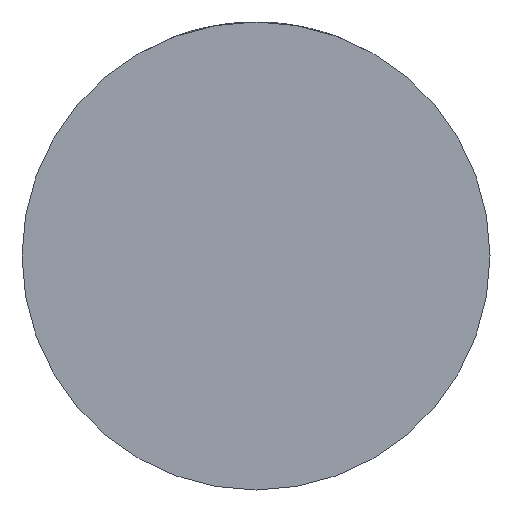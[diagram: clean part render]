
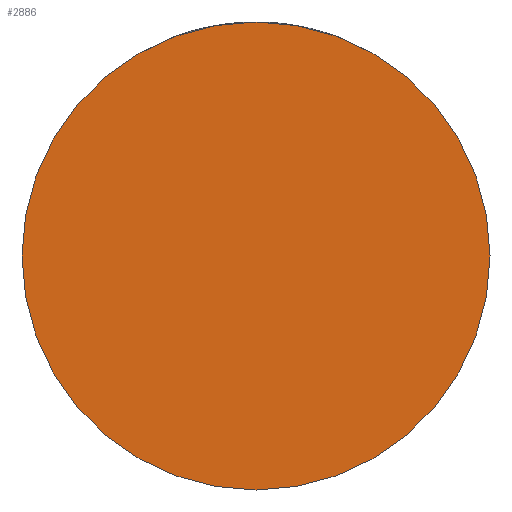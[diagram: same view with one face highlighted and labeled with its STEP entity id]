
A CAD part, front view. The second image highlights one B-rep face of the part: STEP entity #2886.
In plain terms, the highlighted planar face has unit normal (0, -1, 0).
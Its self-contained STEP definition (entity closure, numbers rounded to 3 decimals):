
#258 = DIRECTION ( 'NONE',  ( 0., 1., 0. ) ) ;
#376 = VERTEX_POINT ( 'NONE', #1363 ) ;
#740 = EDGE_CURVE ( 'NONE', #1059, #376, #1647, .T. ) ;
#746 = CARTESIAN_POINT ( 'NONE',  ( 0., -20., 0. ) ) ;
#1059 = VERTEX_POINT ( 'NONE', #4876 ) ;
#1092 = DIRECTION ( 'NONE',  ( 0., 1., 0. ) ) ;
#1123 = AXIS2_PLACEMENT_3D ( 'NONE', #2080, #2516, #3282 ) ;
#1166 = EDGE_CURVE ( 'NONE', #376, #1059, #1745, .T. ) ;
#1363 = CARTESIAN_POINT ( 'NONE',  ( -27.5, -20., 0. ) ) ;
#1532 = DIRECTION ( 'NONE',  ( -1., 0., 0. ) ) ;
#1647 = CIRCLE ( 'NONE', #3649, 27.5 ) ;
#1745 = CIRCLE ( 'NONE', #2435, 27.5 ) ;
#2034 = PLANE ( 'NONE',  #1123 ) ;
#2080 = CARTESIAN_POINT ( 'NONE',  ( 0., -20., 0. ) ) ;
#2336 = EDGE_LOOP ( 'NONE', ( #4480, #3519 ) ) ;
#2394 = DIRECTION ( 'NONE',  ( -1., 0., 0. ) ) ;
#2435 = AXIS2_PLACEMENT_3D ( 'NONE', #5259, #258, #1532 ) ;
#2516 = DIRECTION ( 'NONE',  ( 0., -1., 0. ) ) ;
#2829 = FACE_OUTER_BOUND ( 'NONE', #2336, .T. ) ;
#2886 = ADVANCED_FACE ( 'NONE', ( #2829 ), #2034, .T. ) ;
#3282 = DIRECTION ( 'NONE',  ( 1., 0., 0. ) ) ;
#3519 = ORIENTED_EDGE ( 'NONE', *, *, #740, .F. ) ;
#3649 = AXIS2_PLACEMENT_3D ( 'NONE', #746, #1092, #2394 ) ;
#4480 = ORIENTED_EDGE ( 'NONE', *, *, #1166, .F. ) ;
#4876 = CARTESIAN_POINT ( 'NONE',  ( 27.5, -20., 0. ) ) ;
#5259 = CARTESIAN_POINT ( 'NONE',  ( 0., -20., 0. ) ) ;
